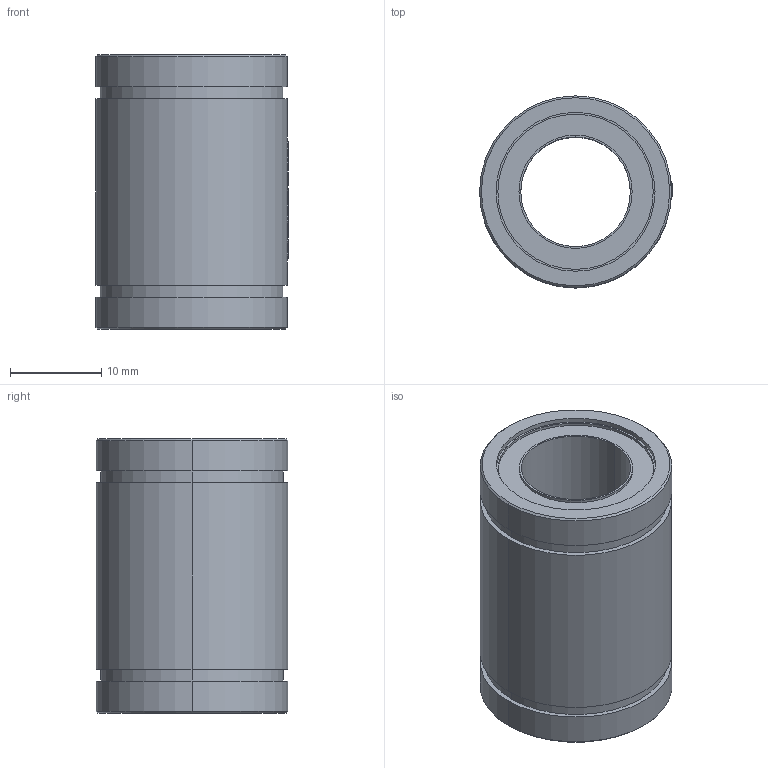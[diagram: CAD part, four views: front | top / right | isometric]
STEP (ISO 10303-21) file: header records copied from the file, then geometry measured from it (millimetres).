
FILE_DESCRIPTION (( 'STEP AP214' ), '1' );
FILE_NAME ('LM12UU.STEP', '2020-09-22T09:09:41', ( '' ), ( '' ), 'SwSTEP 2.0', 'SolidWorks 2018', '' );
FILE_SCHEMA (( 'AUTOMOTIVE_DESIGN' ));
Length unit declared in the file: millimetre
Products named in the file (3): LM12UU-2; LM12UU-1; LM12UU
Assembly tree (2 placements, depth 2):
  LM12UU
    LM12UU-1
    LM12UU-2
Bounding box: 21.1 x 21 x 30 mm (x, y, z)
Volume: 6723.7 mm3; surface area: 6931.4 mm2
Topology: 2 solids, 2 shells, 227 faces, 629 edges, 418 vertices
Faces by surface type: plane 115, cylinder 70, bspline 38, cone 4
Entity records: 9251 total; most frequent: CARTESIAN_POINT 3721, ORIENTED_EDGE 1258, DIRECTION 793, EDGE_CURVE 629, VERTEX_POINT 418, LINE 301, VECTOR 301, AXIS2_PLACEMENT_3D 246
